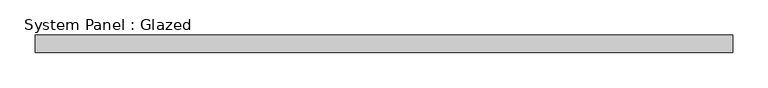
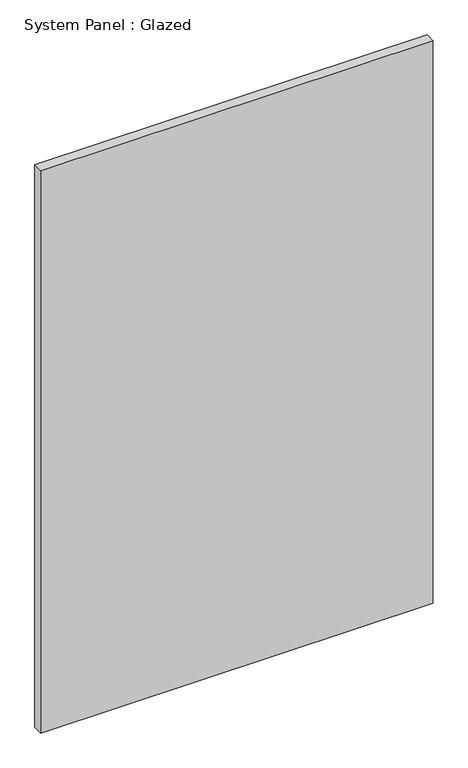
"""IFC4 building model written with IfcOpenShell, lengths in millimetres: plate geometry, System Panel : Glazed."""

from ifc_helpers import new_model, si_unit, origin, origin_with_axes, place, context, project, spatial, polyline, outline, extrude, source, transform, mapped, element, save


def system_panel_glazed_7fad4a23(model_context):
    return source(origin(), model_context, "Body", "SweptSolid", [
        extrude(outline(polyline([(495.9415842, 24.5), (-495.9415842, 24.5), (-495.9415842, 49.5), (495.9415842, 49.5), (495.9415842, 24.5)])), origin_with_axes(), (0.0, 0.0, 1.0), 1501.9163327),
    ])


if __name__ == "__main__":
    model = new_model("IFC4")
    model_context = context("Model", 3, world=origin())
    ifc_project = project(units=[si_unit("LENGTHUNIT", "METRE", prefix="MILLI")], contexts=[model_context])
    site = spatial("IfcSite", under=ifc_project)
    building = spatial("IfcBuilding", under=site)
    placement = place(None, origin())
    system_panel_glazed_shape = system_panel_glazed_7fad4a23(model_context)
    element("IfcPlate", 1, ObjectType="System Panel : Glazed", at=placement, inside=building, context=model_context, shape_type="MappedRepresentation", body=[
        mapped(system_panel_glazed_shape, transform((0.0, 0.0, 0.0), x_axis=(1.0, 0.0, 0.0), y_axis=(0.0, 1.0, 0.0), z_axis=(0.0, 0.0, 1.0))),
    ])
    save(model, "model.ifc")
